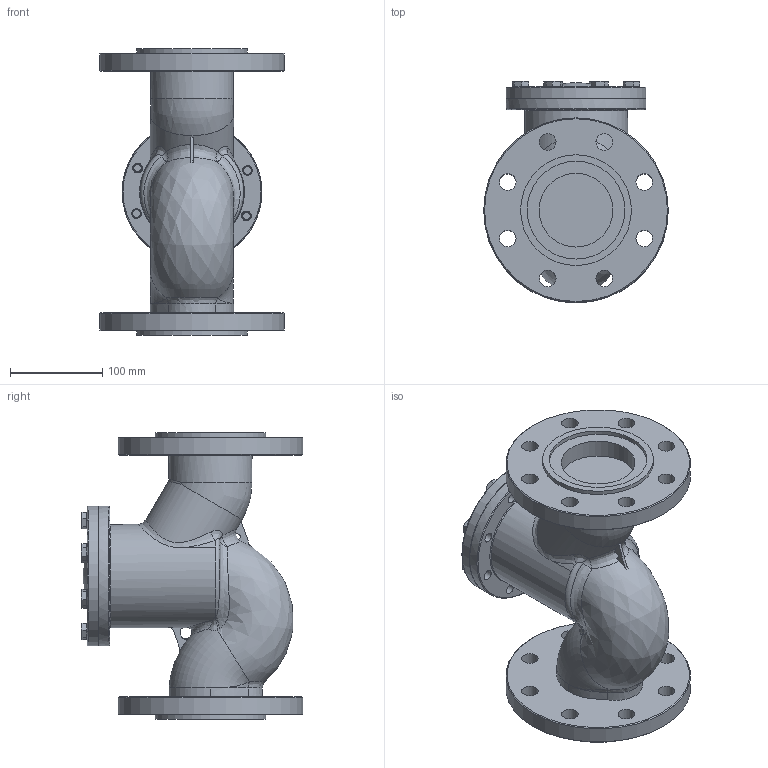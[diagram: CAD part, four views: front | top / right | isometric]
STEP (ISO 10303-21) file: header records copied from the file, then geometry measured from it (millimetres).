
FILE_DESCRIPTION(('STEP AP214'), '1');
FILE_NAME('VCR3434-F 孰囡囗 钺疣蝽 DN.ru 捏80 畜40', '', ('UNSPECIFIED'), ('UNSPECIFIED'), 'C3D Converter', 'C3D Toolkit', '');
FILE_SCHEMA(('AUTOMOTIVE_DESIGN { 1 0 10303 214 3 1 1}'));
Length unit declared in the file: millimetre
Products named in the file (1): VCR3434-F
Bounding box: 200 x 240 x 310 mm (x, y, z)
Volume: 3104414.2 mm3; surface area: 429590.6 mm2
Topology: 1 solids, 4 shells, 405 faces, 945 edges, 590 vertices
Faces by surface type: plane 200, cylinder 78, cone 60, bspline 50, torus 10, extrusion 4, sphere 3
Full cylindrical faces by diameter (mm): 10 x8, 10.639 x16, 15 x1, 16 x8, 18 x16, 80 x4, 90 x2, 106 x2, 111.719 x1, 120 x2, 151.428 x2, 200 x2
Entity records: 24816 total; most frequent: CARTESIAN_POINT 14709, ORIENTED_EDGE 1719, DIRECTION 1596, EDGE_CURVE 860, AXIS2_PLACEMENT_3D 658, VERTEX_POINT 587, EDGE_LOOP 580, FACE_BOUND 462
